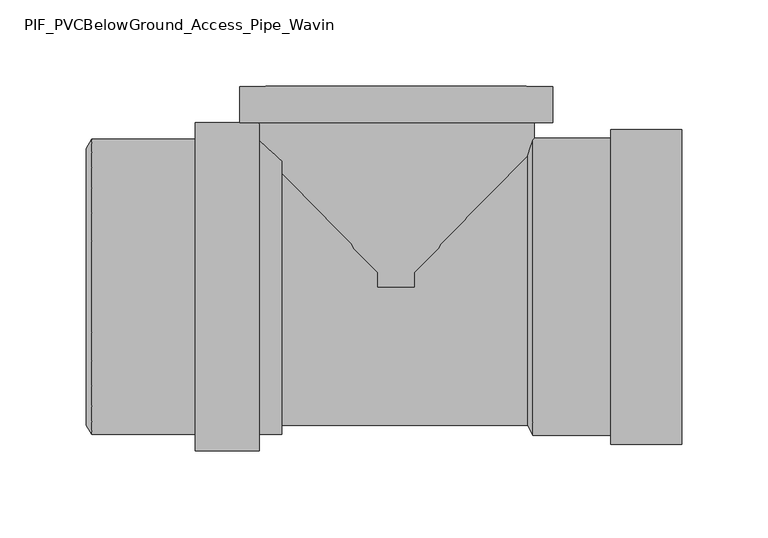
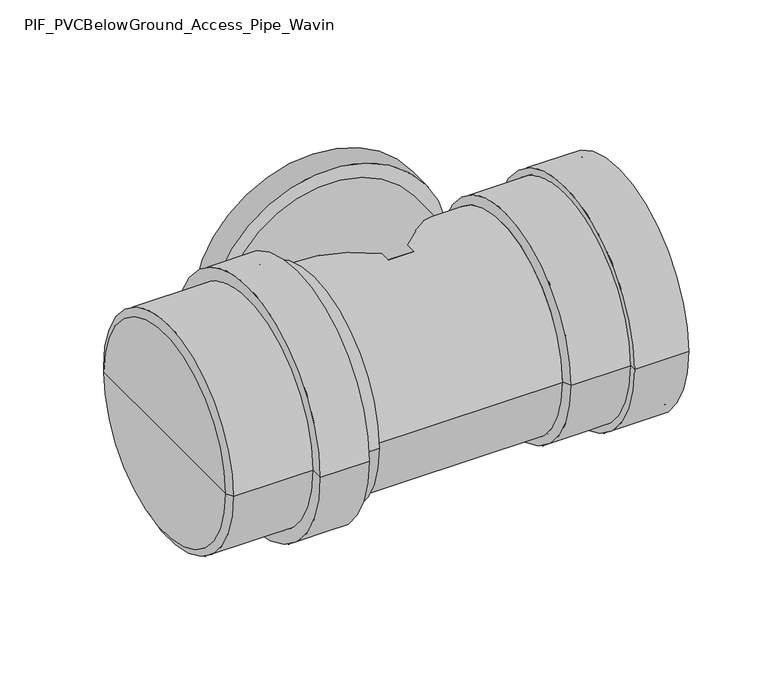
"""IFC4 building model written with IfcOpenShell, lengths in millimetres: pipe fitting geometry, PIF_PVCBelowGround_Access_Pipe_Wavin : PP Brown RAL8012 - Sever Lock Socket - SN8."""

import ifcopenshell
import ifcopenshell.guid

model = None  # the IFC model being written
_history = None  # IfcOwnerHistory: only IFC2X3 demands one
_inside = {}  # id of a spatial element -> (the spatial element, [elements in it])
_under = {}  # id of a project, library or spatial element -> (it, [spatial elements below it])
_declared = {}  # id of a project -> (the project, [libraries it declares])
_typed = {}  # id of a type object -> (the type object, [elements of that type])
_made_of = {}  # id of a material, layer set ... -> (it, [elements and type objects made of it])


def new_model(schema):
    """Start an empty IFC model of exactly this schema.

    Asked for "IFC4X3", IfcOpenShell would pick the latest addendum, in which some entities
    have other attributes; the version numbers below select the first issue.
    IFC2X3 requires an IfcOwnerHistory on every rooted entity: one is made here for all.
    """
    global model, _history
    if schema == "IFC4X3":
        model = ifcopenshell.file(schema_version=(4, 3, 0, 0))
    else:
        model = ifcopenshell.file(schema=schema)
    _inside.clear()
    _under.clear()
    _declared.clear()
    _typed.clear()
    _made_of.clear()
    _history = None
    if model.schema == "IFC2X3":
        org = make("IfcOrganization", Name="unknown")
        user = make(
            "IfcPersonAndOrganization",
            ThePerson=make("IfcPerson", FamilyName="unknown"),
            TheOrganization=org,
        )
        app = make(
            "IfcApplication",
            ApplicationDeveloper=org,
            Version="unknown",
            ApplicationFullName="unknown",
            ApplicationIdentifier="unknown",
        )
        _history = make(
            "IfcOwnerHistory",
            OwningUser=user,
            OwningApplication=app,
            ChangeAction="ADDED",
            CreationDate=0,
        )
    return model


def make(cls, **values):
    """One entity of the class cls with the attributes given. An attribute that is None is left unset."""
    return model.create_entity(
        cls, **{name: value for name, value in values.items() if value is not None}
    )


def rooted(cls, **values):
    """An entity with a GlobalId (a new one), such as an element, a storey or a relation."""
    return make(cls, GlobalId=ifcopenshell.guid.new(), OwnerHistory=_history, **values)


def si_unit(unit_type, name, prefix=None):
    """IfcSIUnit, for example si_unit("LENGTHUNIT", "METRE", prefix="MILLI")."""
    return make("IfcSIUnit", UnitType=unit_type, Prefix=prefix, Name=name)


def assignment(units):
    """IfcUnitAssignment: the units of a project."""
    return None if units is None else make("IfcUnitAssignment", Units=units)


def point(xyz):
    """IfcCartesianPoint."""
    return None if xyz is None else make("IfcCartesianPoint", Coordinates=xyz)


def direction(xyz):
    """IfcDirection."""
    return None if xyz is None else make("IfcDirection", DirectionRatios=xyz)


def frame(location, z_axis=None, x_axis=None):
    """IfcAxis2Placement3D, a coordinate frame: its origin and axes. An axis left out is left unset."""
    return make(
        "IfcAxis2Placement3D",
        Location=point(location),
        Axis=direction(z_axis),
        RefDirection=direction(x_axis),
    )


def frame_2d(location, x_axis=None):
    """IfcAxis2Placement2D, a coordinate frame in the plane: its origin and x axis."""
    return make(
        "IfcAxis2Placement2D", Location=point(location), RefDirection=direction(x_axis)
    )


def origin():
    """The frame at (0, 0, 0) with its axes left unset."""
    return frame((0.0, 0.0, 0.0))


def origin_2d():
    """The frame at (0, 0) in the plane with its x axis left unset."""
    return frame_2d((0.0, 0.0))


def place(relative_to, where):
    """IfcLocalPlacement: puts the frame where relative to a parent placement (None: the world)."""
    return make(
        "IfcLocalPlacement", PlacementRelTo=relative_to, RelativePlacement=where
    )


def context(
    kind, dimensions, precision=None, world=None, true_north=None, identifier=None
):
    """IfcGeometricRepresentationContext, for example the 3D "Model" context."""
    return make(
        "IfcGeometricRepresentationContext",
        ContextIdentifier=identifier,
        ContextType=kind,
        CoordinateSpaceDimension=dimensions,
        Precision=precision,
        WorldCoordinateSystem=world,
        TrueNorth=true_north,
    )


def project(units=None, contexts=None):
    """IfcProject with its units and contexts."""
    return rooted(
        "IfcProject",
        Name="project",
        RepresentationContexts=contexts,
        UnitsInContext=assignment(units),
    )


def spatial(cls, under=None, at=None, **own):
    """A site, building, storey or space (cls), placed at a placement, below another one or the project."""
    s = rooted(cls, ObjectPlacement=at, **own)
    if under is not None:
        _under.setdefault(under.id(), (under, []))[1].append(s)
    return s


def polyline(points):
    """IfcPolyline through the points."""
    return make("IfcPolyline", Points=[point(p) for p in points])


def circle_curve(where, radius):
    """IfcCircle in the frame where."""
    return make("IfcCircle", Position=where, Radius=radius)


def trimmed(basis, trim1, trim2, sense, master):
    """IfcTrimmedCurve: the piece of a basis curve between two trims."""
    return make(
        "IfcTrimmedCurve",
        BasisCurve=basis,
        Trim1=trim1,
        Trim2=trim2,
        SenseAgreement=sense,
        MasterRepresentation=master,
    )


def segment(curve, same_sense, transition):
    """IfcCompositeCurveSegment."""
    return make(
        "IfcCompositeCurveSegment",
        Transition=transition,
        SameSense=same_sense,
        ParentCurve=curve,
    )


def composite_curve(segments, self_intersect=None):
    """IfcCompositeCurve: segments joined end to end."""
    return make("IfcCompositeCurve", Segments=segments, SelfIntersect=self_intersect)


def outline(outer, holes=None, kind="AREA"):
    """IfcArbitraryClosedProfileDef: a profile drawn as a closed curve; with holes, ...WithVoids."""
    if holes is None:
        return make("IfcArbitraryClosedProfileDef", ProfileType=kind, OuterCurve=outer)
    return make(
        "IfcArbitraryProfileDefWithVoids",
        ProfileType=kind,
        OuterCurve=outer,
        InnerCurves=holes,
    )


def extrude(swept, where, along, depth):
    """IfcExtrudedAreaSolid: the profile swept, set in the frame where, extruded along a direction by depth."""
    return make(
        "IfcExtrudedAreaSolid",
        SweptArea=swept,
        Position=where,
        ExtrudedDirection=direction(along),
        Depth=depth,
    )


def shape(context_of_items, identifier, shape_type, items):
    """IfcShapeRepresentation: the items that make up one representation, for example the "Body"."""
    return make(
        "IfcShapeRepresentation",
        ContextOfItems=context_of_items,
        RepresentationIdentifier=identifier,
        RepresentationType=shape_type,
        Items=items,
    )


def source(mapping_origin, context_of_items, identifier, shape_type, items):
    """IfcRepresentationMap: a shape defined once, which mapped items show again and again."""
    return make(
        "IfcRepresentationMap",
        MappingOrigin=mapping_origin,
        MappedRepresentation=shape(context_of_items, identifier, shape_type, items),
    )


def transform(
    local_origin,
    x_axis=None,
    y_axis=None,
    z_axis=None,
    scale=None,
    scale2=None,
    scale3=None,
    uniform=True,
):
    """IfcCartesianTransformationOperator3D, or its non-uniform kind. x_axis, y_axis, z_axis: its Axis1, 2, 3."""
    if uniform:
        return make(
            "IfcCartesianTransformationOperator3D",
            Axis1=direction(x_axis),
            Axis2=direction(y_axis),
            LocalOrigin=point(local_origin),
            Scale=scale,
            Axis3=direction(z_axis),
        )
    return make(
        "IfcCartesianTransformationOperator3DnonUniform",
        Axis1=direction(x_axis),
        Axis2=direction(y_axis),
        LocalOrigin=point(local_origin),
        Scale=scale,
        Axis3=direction(z_axis),
        Scale2=scale2,
        Scale3=scale3,
    )


def mapped(mapping_source, mapping_target):
    """IfcMappedItem: shows the shape of a source again, moved by a transform."""
    return make(
        "IfcMappedItem", MappingSource=mapping_source, MappingTarget=mapping_target
    )


def made_of(thing, what):
    """Note that an element or type object is made of a material, layer set ...; save() writes the relation."""
    if what is not None:
        _made_of.setdefault(what.id(), (what, []))[1].append(thing)
    return thing


def element(
    cls,
    number,
    at=None,
    inside=None,
    cuts=None,
    type_object=None,
    material=None,
    context=None,
    identifier="Body",
    shape_type=None,
    held_by="IfcProductDefinitionShape",
    body=None,
    shapes=None,
    **own,
):
    """One element of the class cls, such as IfcWall. Its Tag is "e" and its number.

    at: its placement. inside: the storey or other place that contains it. cuts: it is an
    opening in that element (IfcRelVoidsElement). A single representation is given by context,
    identifier, shape_type and body (its items); several are given by shapes. held_by: the class
    of the entity that holds the representations. save() writes the other relations.
    """
    e = rooted(cls, Tag="e%d" % number, ObjectPlacement=at, **own)
    if body is not None:
        shapes = [shape(context, identifier, shape_type, body)]
    if shapes is not None:
        e.Representation = make(held_by, Representations=shapes)
    if inside is not None:
        _inside.setdefault(inside.id(), (inside, []))[1].append(e)
    if cuts is not None:
        rooted(
            "IfcRelVoidsElement", RelatingBuildingElement=cuts, RelatedOpeningElement=e
        )
    if type_object is not None:
        _typed.setdefault(type_object.id(), (type_object, []))[1].append(e)
    return made_of(e, material)


def aggregate(whole, parts):
    """IfcRelAggregates: a whole, such as a stair, and the parts it consists of."""
    return rooted("IfcRelAggregates", RelatingObject=whole, RelatedObjects=parts)


def save(model, path):
    """Write the relations noted so far, then the file.

    IfcRelAggregates (storeys below a building ...), IfcRelContainedInSpatialStructure (elements
    in a storey), IfcRelDefinesByType, IfcRelAssociatesMaterial and IfcRelDeclares: one each for
    every whole, place, type object, material and project.
    """
    for whole, parts in _under.values():
        aggregate(whole, parts)
    for where, things in _inside.values():
        rooted(
            "IfcRelContainedInSpatialStructure",
            RelatedElements=things,
            RelatingStructure=where,
        )
    for kind, things in _typed.values():
        rooted("IfcRelDefinesByType", RelatedObjects=things, RelatingType=kind)
    for what, things in _made_of.values():
        rooted("IfcRelAssociatesMaterial", RelatedObjects=things, RelatingMaterial=what)
    for by, libraries in _declared.values():
        rooted("IfcRelDeclares", RelatingContext=by, RelatedDefinitions=libraries)
    model.write(path)


def plane_surface(at):
    """IfcPlane: the flat surface through the origin of the frame at, square to its z axis."""
    return make("IfcPlane", Position=at)


def cylinder_surface(at, radius):
    """IfcCylindricalSurface: all points at the distance radius from the z axis of the frame at."""
    return make("IfcCylindricalSurface", Position=at, Radius=radius)


def revolved_surface(curve, axis_point, axis_direction):
    """IfcSurfaceOfRevolution: the curve turned about the line through axis_point along axis_direction."""
    return make(
        "IfcSurfaceOfRevolution",
        SweptCurve=make("IfcArbitraryOpenProfileDef", ProfileType="CURVE", Curve=curve),
        AxisPosition=make("IfcAxis1Placement", Location=point(axis_point), Axis=direction(axis_direction)),
    )


def advanced_brep(points, edges, surfaces, faces):
    """IfcAdvancedBrep: a solid bounded by faces that lie on surfaces and meet in shared edges.

    An edge is (start, end): straight between two places in points (the first is 0);
    or (start, end, curve); or (start, end, curve, False) where it runs against its curve.
    A face is (place in surfaces, loops), or (place, loops, False) where it looks against
    its surface's normal. A loop lists edges by number (the first is 1), with a minus sign
    where the edge is run from its end to its start. The first loop is the outer one.
    """
    corners = [point(p) for p in points]
    vertices = [make("IfcVertexPoint", VertexGeometry=c) for c in corners]
    made = []
    for start, end, *more in edges:
        made.append(
            make(
                "IfcEdgeCurve",
                EdgeStart=vertices[start],
                EdgeEnd=vertices[end],
                EdgeGeometry=more[0] if more else make("IfcPolyline", Points=[corners[start], corners[end]]),
                SameSense=more[1] if len(more) > 1 else True,
            )
        )
    hull = []
    for where, loops, *sense in faces:
        bounds = []
        for j, loop in enumerate(loops):
            ring = [make("IfcOrientedEdge", EdgeElement=made[abs(k) - 1], Orientation=k > 0) for k in loop]
            bounds.append(
                make(
                    "IfcFaceOuterBound" if j == 0 else "IfcFaceBound",
                    Bound=make("IfcEdgeLoop", EdgeList=ring),
                    Orientation=True,
                )
            )
        hull.append(make("IfcAdvancedFace", Bounds=bounds, FaceSurface=surfaces[where], SameSense=sense[0] if sense else True))
    return make("IfcAdvancedBrep", Outer=make("IfcClosedShell", CfsFaces=hull))


def pif_pvcbelowground_access_pipe_wavin_018380af(model_context):
    return source(origin(), model_context, "Body", "SolidModel", [
        advanced_brep(
        [(-116.0, -95.0, 0.0), (-116.0, 95.0, 0.0), (-79.0, 95.0, 0.0), (-79.0, -95.0, 0.0), (-116.0, -85.45, 0.0), (-116.0, 85.45, 0.0), (-79.0, -85.45, 0.0), (-79.0, 85.45, 0.0)],
        [
            (0, 1, circle_curve(frame((-116.0, 0.0, 0.0), z_axis=(1.0, 0.0, 0.0), x_axis=(0.0, 1.0, 0.0)), 95.0)),
            (1, 2),
            (2, 3, circle_curve(frame((-79.0, 0.0, 0.0), z_axis=(-1.0, 0.0, 0.0), x_axis=(0.0, 1.0, 0.0)), 95.0)),
            (3, 0),
            (1, 0, circle_curve(frame((-116.0, 0.0, 0.0), z_axis=(1.0, 0.0, 0.0), x_axis=(0.0, 1.0, 0.0)), 95.0)),
            (3, 2, circle_curve(frame((-79.0, 0.0, 0.0), z_axis=(-1.0, 0.0, 0.0), x_axis=(0.0, 1.0, 0.0)), 95.0)),
            (4, 5, circle_curve(frame((-116.0, 0.0, 0.0), z_axis=(1.0, 0.0, 0.0), x_axis=(0.0, 1.0, 0.0)), 85.45)),
            (5, 1),
            (0, 4),
            (5, 4, circle_curve(frame((-116.0, 0.0, 0.0), z_axis=(1.0, 0.0, 0.0), x_axis=(0.0, 1.0, 0.0)), 85.45)),
            (6, 7, circle_curve(frame((-79.0, 0.0, 0.0), z_axis=(1.0, 0.0, 0.0), x_axis=(0.0, 1.0, 0.0)), 85.45)),
            (7, 5),
            (4, 6),
            (7, 6, circle_curve(frame((-79.0, 0.0, 0.0), z_axis=(1.0, 0.0, 0.0), x_axis=(0.0, 1.0, 0.0)), 85.45)),
            (2, 7),
            (6, 3),
        ],
        [
            cylinder_surface(frame((1844.3, 0.0, 0.0), z_axis=(-1.0, 0.0, 0.0), x_axis=(0.0, 1.0, 0.0)), 95.0),
            plane_surface(frame((-116.0, 0.0, 0.0), z_axis=(-1.0, 0.0, 0.0), x_axis=(0.0, 1.0, 0.0))),
            revolved_surface(polyline([(-116.0, 85.45, 0.0), (-79.0, 85.45, 0.0)]), (1844.3, 0.0, 0.0), (-1.0, 0.0, 0.0)),
            plane_surface(frame((-79.0, 0.0, 0.0), z_axis=(1.0, 0.0, 0.0), x_axis=(0.0, 1.0, 0.0))),
        ],
        [
            (0, [[1, 2, 3, 4]]),
            (0, [[5, -4, 6, -2]]),
            (1, [[7, 8, -1, 9]]),
            (1, [[10, -9, -5, -8]]),
            (2, [[11, 12, -7, 13]]),
            (2, [[14, -13, -10, -12]]),
            (3, [[-3, 15, -11, 16]]),
            (3, [[-6, -16, -14, -15]]),
        ],
    ),
        advanced_brep(
        [(-66.0, -85.45, 0.0), (-66.0, 85.45, 0.0), (-66.0, 80.0, 0.0), (-66.0, -80.0, 0.0), (-176.0, -85.45, 0.0), (-176.0, 85.45, 0.0), (-179.0, -80.0, 0.0), (-179.0, 80.0, 0.0), (-179.0, 0.0, 0.0), (-176.0, -80.0, 0.0), (-176.0, 80.0, 0.0), (-176.0, 0.0, 0.0)],
        [
            (0, 1, circle_curve(frame((-66.0, 0.0, 0.0), z_axis=(1.0, 0.0, 0.0), x_axis=(0.0, 1.0, 0.0)), 85.45)),
            (1, 2),
            (2, 3, circle_curve(frame((-66.0, 0.0, 0.0), z_axis=(-1.0, 0.0, 0.0), x_axis=(0.0, 1.0, 0.0)), 80.0)),
            (3, 0),
            (1, 0, circle_curve(frame((-66.0, 0.0, 0.0), z_axis=(1.0, 0.0, 0.0), x_axis=(0.0, 1.0, 0.0)), 85.45)),
            (3, 2, circle_curve(frame((-66.0, 0.0, 0.0), z_axis=(-1.0, 0.0, 0.0), x_axis=(0.0, 1.0, 0.0)), 80.0)),
            (4, 5, circle_curve(frame((-176.0, 0.0, 0.0), z_axis=(1.0, 0.0, 0.0), x_axis=(0.0, 1.0, 0.0)), 85.45)),
            (5, 1),
            (0, 4),
            (5, 4, circle_curve(frame((-176.0, 0.0, 0.0), z_axis=(1.0, 0.0, 0.0), x_axis=(0.0, 1.0, 0.0)), 85.45)),
            (6, 7, circle_curve(frame((-179.0, 0.0, 0.0), z_axis=(1.0, 0.0, 0.0), x_axis=(0.0, 1.0, 0.0)), 80.0)),
            (7, 5),
            (4, 6),
            (7, 6, circle_curve(frame((-179.0, 0.0, 0.0), z_axis=(1.0, 0.0, 0.0), x_axis=(0.0, 1.0, 0.0)), 80.0)),
            (8, 7),
            (6, 8),
            (9, 10, circle_curve(frame((-176.0, 0.0, 0.0), z_axis=(1.0, 0.0, 0.0), x_axis=(0.0, 1.0, 0.0)), 80.0)),
            (10, 11),
            (11, 9),
            (10, 9, circle_curve(frame((-176.0, 0.0, 0.0), z_axis=(1.0, 0.0, 0.0), x_axis=(0.0, 1.0, 0.0)), 80.0)),
            (2, 10),
            (9, 3),
        ],
        [
            plane_surface(frame((-66.0, 0.0, 0.0), z_axis=(1.0, 0.0, 0.0), x_axis=(0.0, 1.0, 0.0))),
            cylinder_surface(frame((1844.3, 0.0, 0.0), z_axis=(-1.0, 0.0, 0.0), x_axis=(0.0, 1.0, 0.0)), 85.45),
            revolved_surface(polyline([(-176.0, 85.45, 0.0), (-179.0, 80.0, 0.0)]), (1844.3, 0.0, 0.0), (-1.0, 0.0, 0.0)),
            plane_surface(frame((-179.0, 0.0, 0.0), z_axis=(-1.0, 0.0, 0.0), x_axis=(0.0, 1.0, 0.0))),
            plane_surface(frame((-176.0, 0.0, 0.0), z_axis=(1.0, 0.0, 0.0), x_axis=(0.0, 1.0, 0.0))),
            revolved_surface(polyline([(-176.0, 80.0, 0.0), (-66.0, 80.0, 0.0)]), (1844.3, 0.0, 0.0), (-1.0, 0.0, 0.0)),
        ],
        [
            (0, [[1, 2, 3, 4]]),
            (0, [[5, -4, 6, -2]]),
            (1, [[7, 8, -1, 9]]),
            (1, [[10, -9, -5, -8]]),
            (2, [[11, 12, -7, 13]]),
            (2, [[14, -13, -10, -12]]),
            (3, [[15, -11, 16]]),
            (3, [[-16, -14, -15]]),
            (4, [[17, 18, 19]]),
            (4, [[20, -19, -18]]),
            (5, [[-3, 21, -17, 22]]),
            (5, [[-6, -22, -20, -21]]),
        ],
    ),
        advanced_brep(
        [(124.0, -91.0, 0.0), (124.0, 91.0, 0.0), (165.0, 91.0, 0.0), (165.0, -91.0, 0.0), (124.0, -85.95, 0.0), (124.0, 85.95, 0.0), (165.0, -85.95, 0.0), (165.0, 85.95, 0.0)],
        [
            (0, 1, circle_curve(frame((124.0, 0.0, 0.0), z_axis=(1.0, 0.0, 0.0), x_axis=(0.0, 1.0, 0.0)), 91.0)),
            (1, 2),
            (2, 3, circle_curve(frame((165.0, 0.0, 0.0), z_axis=(-1.0, 0.0, 0.0), x_axis=(0.0, 1.0, 0.0)), 91.0)),
            (3, 0),
            (1, 0, circle_curve(frame((124.0, 0.0, 0.0), z_axis=(1.0, 0.0, 0.0), x_axis=(0.0, 1.0, 0.0)), 91.0)),
            (3, 2, circle_curve(frame((165.0, 0.0, 0.0), z_axis=(-1.0, 0.0, 0.0), x_axis=(0.0, 1.0, 0.0)), 91.0)),
            (4, 5, circle_curve(frame((124.0, 0.0, 0.0), z_axis=(1.0, 0.0, 0.0), x_axis=(0.0, 1.0, 0.0)), 85.95)),
            (5, 1),
            (0, 4),
            (5, 4, circle_curve(frame((124.0, 0.0, 0.0), z_axis=(1.0, 0.0, 0.0), x_axis=(0.0, 1.0, 0.0)), 85.95)),
            (6, 7, circle_curve(frame((165.0, 0.0, 0.0), z_axis=(1.0, 0.0, 0.0), x_axis=(0.0, 1.0, 0.0)), 85.95)),
            (7, 5),
            (4, 6),
            (7, 6, circle_curve(frame((165.0, 0.0, 0.0), z_axis=(1.0, 0.0, 0.0), x_axis=(0.0, 1.0, 0.0)), 85.95)),
            (2, 7),
            (6, 3),
        ],
        [
            cylinder_surface(frame((2075.3, 0.0, 0.0), z_axis=(-1.0, 0.0, 0.0), x_axis=(0.0, 1.0, 0.0)), 91.0),
            plane_surface(frame((124.0, 0.0, 0.0), z_axis=(-1.0, 0.0, 0.0), x_axis=(0.0, 1.0, 0.0))),
            revolved_surface(polyline([(124.0, 85.95, 0.0), (165.0, 85.95, 0.0)]), (2075.3, 0.0, 0.0), (-1.0, 0.0, 0.0)),
            plane_surface(frame((165.0, 0.0, 0.0), z_axis=(1.0, 0.0, 0.0), x_axis=(0.0, 1.0, 0.0))),
        ],
        [
            (0, [[1, 2, 3, 4]]),
            (0, [[5, -4, 6, -2]]),
            (1, [[7, 8, -1, 9]]),
            (1, [[10, -9, -5, -8]]),
            (2, [[11, 12, -7, 13]]),
            (2, [[14, -13, -10, -12]]),
            (3, [[-3, 15, -11, 16]]),
            (3, [[-6, -16, -14, -15]]),
        ],
    ),
        advanced_brep(
        [(165.0, -85.95, 0.0), (165.0, 85.95, 0.0), (165.0, 80.0, 0.0), (165.0, -80.0, 0.0), (79.0, -85.95, 0.0), (79.0, 85.95, 0.0), (76.0, -80.0, 0.0), (76.0, 80.0, 0.0), (76.0, 0.0, 0.0), (79.0, -80.0, 0.0), (79.0, 80.0, 0.0), (79.0, 0.0, 0.0)],
        [
            (0, 1, circle_curve(frame((165.0, 0.0, 0.0), z_axis=(1.0, 0.0, 0.0), x_axis=(0.0, 1.0, 0.0)), 85.95)),
            (1, 2),
            (2, 3, circle_curve(frame((165.0, 0.0, 0.0), z_axis=(-1.0, 0.0, 0.0), x_axis=(0.0, 1.0, 0.0)), 80.0)),
            (3, 0),
            (1, 0, circle_curve(frame((165.0, 0.0, 0.0), z_axis=(1.0, 0.0, 0.0), x_axis=(0.0, 1.0, 0.0)), 85.95)),
            (3, 2, circle_curve(frame((165.0, 0.0, 0.0), z_axis=(-1.0, 0.0, 0.0), x_axis=(0.0, 1.0, 0.0)), 80.0)),
            (4, 5, circle_curve(frame((79.0, 0.0, 0.0), z_axis=(1.0, 0.0, 0.0), x_axis=(0.0, 1.0, 0.0)), 85.95)),
            (5, 1),
            (0, 4),
            (5, 4, circle_curve(frame((79.0, 0.0, 0.0), z_axis=(1.0, 0.0, 0.0), x_axis=(0.0, 1.0, 0.0)), 85.95)),
            (6, 7, circle_curve(frame((76.0, 0.0, 0.0), z_axis=(1.0, 0.0, 0.0), x_axis=(0.0, 1.0, 0.0)), 80.0)),
            (7, 5),
            (4, 6),
            (7, 6, circle_curve(frame((76.0, 0.0, 0.0), z_axis=(1.0, 0.0, 0.0), x_axis=(0.0, 1.0, 0.0)), 80.0)),
            (8, 7),
            (6, 8),
            (9, 10, circle_curve(frame((79.0, 0.0, 0.0), z_axis=(1.0, 0.0, 0.0), x_axis=(0.0, 1.0, 0.0)), 80.0)),
            (10, 11),
            (11, 9),
            (10, 9, circle_curve(frame((79.0, 0.0, 0.0), z_axis=(1.0, 0.0, 0.0), x_axis=(0.0, 1.0, 0.0)), 80.0)),
            (2, 10),
            (9, 3),
        ],
        [
            plane_surface(frame((165.0, 0.0, 0.0), z_axis=(1.0, 0.0, 0.0), x_axis=(0.0, 1.0, 0.0))),
            cylinder_surface(frame((2075.3, 0.0, 0.0), z_axis=(-1.0, 0.0, 0.0), x_axis=(0.0, 1.0, 0.0)), 85.95),
            revolved_surface(polyline([(79.0, 85.95, 0.0), (76.0, 80.0, 0.0)]), (2075.3, 0.0, 0.0), (-1.0, 0.0, 0.0)),
            plane_surface(frame((76.0, 0.0, 0.0), z_axis=(-1.0, 0.0, 0.0), x_axis=(0.0, 1.0, 0.0))),
            plane_surface(frame((79.0, 0.0, 0.0), z_axis=(1.0, 0.0, 0.0), x_axis=(0.0, 1.0, 0.0))),
            revolved_surface(polyline([(79.0, 80.0, 0.0), (165.0, 80.0, 0.0)]), (2075.3, 0.0, 0.0), (-1.0, 0.0, 0.0)),
        ],
        [
            (0, [[1, 2, 3, 4]]),
            (0, [[5, -4, 6, -2]]),
            (1, [[7, 8, -1, 9]]),
            (1, [[10, -9, -5, -8]]),
            (2, [[11, 12, -7, 13]]),
            (2, [[14, -13, -10, -12]]),
            (3, [[15, -11, 16]]),
            (3, [[-16, -14, -15]]),
            (4, [[17, 18, 19]]),
            (4, [[20, -19, -18]]),
            (5, [[-3, 21, -17, 22]]),
            (5, [[-6, -22, -20, -21]]),
        ],
    ),
        extrude(outline(composite_curve([segment(trimmed(circle_curve(origin_2d(), 90.5), [point((0.0, 90.5))], [point((0.0, -90.5))], False, "CARTESIAN"), True, "CONTINUOUS"), segment(trimmed(circle_curve(origin_2d(), 90.5), [point((0.0, -90.5))], [point((0.0, 90.5))], False, "CARTESIAN"), True, "CONTINUOUS")], self_intersect=False)), frame((0.0, 95.0, 0.0), z_axis=(0.0, 1.0, 0.0), x_axis=(0.0, 0.0, 1.0)), (0.0, 0.0, 1.0), 21.0),
        extrude(outline(composite_curve([segment(trimmed(circle_curve(origin_2d(), 80.0), [point((0.0, -80.0))], [point((0.0, 80.0))], False, "CARTESIAN"), True, "CONTINUOUS"), segment(trimmed(circle_curve(origin_2d(), 80.0), [point((0.0, 80.0))], [point((0.0, -80.0))], False, "CARTESIAN"), True, "CONTINUOUS")], self_intersect=False)), frame((0.0, 0.0, 0.0), z_axis=(0.0, 1.0, 0.0), x_axis=(0.0, 0.0, 1.0)), (0.0, 0.0, 1.0), 116.0),
        extrude(outline(composite_curve([segment(trimmed(circle_curve(origin_2d(), 80.0), [point((-80.0, 0.0))], [point((80.0, 0.0))], False, "CARTESIAN"), True, "CONTINUOUS"), segment(trimmed(circle_curve(origin_2d(), 80.0), [point((80.0, 0.0))], [point((-80.0, 0.0))], False, "CARTESIAN"), True, "CONTINUOUS")], self_intersect=False)), frame((-176.0, 0.0, 0.0), z_axis=(1.0, 0.0, 0.0), x_axis=(0.0, 1.0, 0.0)), (0.0, 0.0, 1.0), 255.0),
    ])


if __name__ == "__main__":
    model = new_model("IFC4")
    model_context = context("Model", 3, world=origin())
    ifc_project = project(units=[si_unit("LENGTHUNIT", "METRE", prefix="MILLI")], contexts=[model_context])
    site = spatial("IfcSite", under=ifc_project)
    building = spatial("IfcBuilding", under=site)
    placement = place(None, origin())
    pif_pvcbelowground_access_pipe_wavin_shape = pif_pvcbelowground_access_pipe_wavin_018380af(model_context)
    element("IfcPipeFitting", 1, ObjectType="PIF_PVCBelowGround_Access_Pipe_Wavin : PP Brown RAL8012 - Sever Lock Socket - SN8", at=placement, inside=building, context=model_context, shape_type="MappedRepresentation", body=[
        mapped(pif_pvcbelowground_access_pipe_wavin_shape, transform((0.0, 0.0, 0.0), x_axis=(1.0, 0.0, 0.0), y_axis=(0.0, 1.0, 0.0), z_axis=(0.0, 0.0, 1.0))),
    ])
    save(model, "model.ifc")
